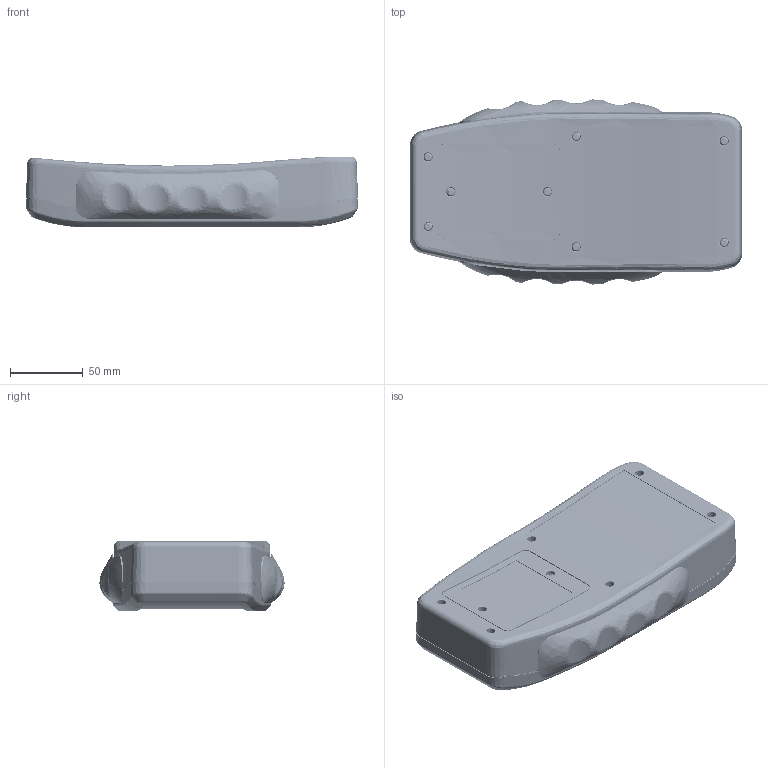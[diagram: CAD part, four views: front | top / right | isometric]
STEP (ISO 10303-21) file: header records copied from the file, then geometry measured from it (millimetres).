
FILE_DESCRIPTION (( 'STEP AP214' ), '1' );
FILE_NAME ('wedge-m_asm.STEP', '2019-06-24T23:40:58', ( '' ), ( '' ), 'SwSTEP 2.0', 'SolidWorks 2014', '' );
FILE_SCHEMA (( 'AUTOMOTIVE_DESIGN' ));
Length unit declared in the file: inch
Products named in the file (67): SCREW-B_6; WASHER; wedge-m_asm; NUT-B_1; SCREW-B_5; TOP-MDL-S-16465; NUT-B; SCREW-B_4; SEAL-DEVICE-C_7; MDL-S-16465; SCREW-B_3; SEAL-DEVICE-C_6; MAIN-PCB; SCREW-B_2; SEAL-DEVICE-C_5; BOTTOM-PCB; SCREW-B_13; SEAL-DEVICE-C_4; BOTTOM; SCREW-B_12; SEAL-DEVICE-C_3; BATTER-DOOR; SCREW-B_11; SEAL-DEVICE-C_2; 4-AAA; SCREW-B_10; SEAL-DEVICE-C_1; BATTERY_2A; SCREW-B_1; SEAL-DEVICE-C; 4XAAA-BOX; SCREW-B; SEAL-DEVICE-B; WASHER_9; 2AA-BOX; SCREW-A_7; SEAL-DEVICE; WASHER_8; 2-9V_1; SCREW-A_6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
Assembly tree (66 placements, depth 3):
  wedge-m_asm
    1-9V
      1-9V_BOX
      2-9V
    2-9V_1
      2-9V-BOX
      2-9V_2
      2-9V_3
    2AA-BOX
    4-AAA
      4XAAA-BOX
      BATTERY_2A
    BATTER-DOOR
    BOTTOM
    BOTTOM-PCB
    MAIN-PCB
    MDL-S-16465
    NUT-B
    NUT-B_1
    RUBBER
    SCREW-A
    SCREW-A_1
    SCREW-A_2
    SCREW-A_3
    SCREW-A_4
    SCREW-A_5
    SCREW-A_6
    SCREW-A_7
    SCREW-B
    SCREW-B_1
    SCREW-B_10
    SCREW-B_11
    SCREW-B_12
    SCREW-B_13
    SCREW-B_2
    SCREW-B_3
    SCREW-B_4
    SCREW-B_5
    SCREW-B_6
    SCREW-B_7
    SCREW-B_8
    SCREW-B_9
    SCREW-C
    SCREW-C_1
    SCREW-C_2
    SCREW-C_3
    SEAL-DEVICE
    SEAL-DEVICE-B
    SEAL-DEVICE-C
    SEAL-DEVICE-C_1
    SEAL-DEVICE-C_2
    SEAL-DEVICE-C_3
    SEAL-DEVICE-C_4
    SEAL-DEVICE-C_5
    SEAL-DEVICE-C_6
    SEAL-DEVICE-C_7
    TOP-MDL-S-16465
    WASHER
    WASHER_1
    WASHER_2
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Bounding box: 228.77 x 127.52 x 48.7 mm (x, y, z)
Volume: 531870.3 mm3; surface area: 384577.9 mm2
Topology: 67 solids, 67 shells, 5541 faces, 15845 edges, 10501 vertices
Faces by surface type: cylinder 2204, plane 1907, bspline 1172, cone 258
Entity records: 340003 total; most frequent: CARTESIAN_POINT 207423, ORIENTED_EDGE 31594, DIRECTION 19523, EDGE_CURVE 15797, VERTEX_POINT 10503, LINE 7065, VECTOR 7065, B_SPLINE_CURVE_WITH_KNOTS 6575
